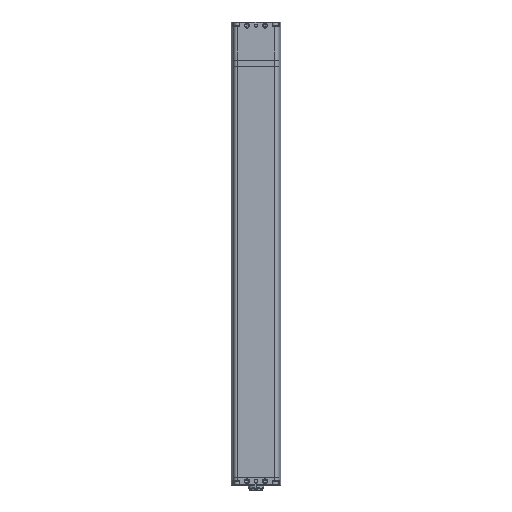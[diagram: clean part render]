
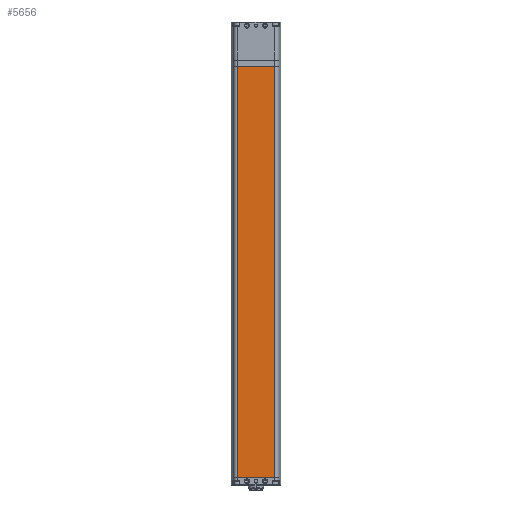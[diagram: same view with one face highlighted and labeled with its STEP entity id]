
A CAD part, front view. The second image highlights one B-rep face of the part: STEP entity #5656.
In plain terms, the highlighted planar face has unit normal (0, -1, 0).
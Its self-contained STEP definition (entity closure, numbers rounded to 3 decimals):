
#2017 = CARTESIAN_POINT ( 'NONE',  ( -31.138, -41., -73. ) ) ;
#2810 = PLANE ( 'NONE',  #3104 ) ;
#3104 = AXIS2_PLACEMENT_3D ( 'NONE', #18242, #6195, #4494 ) ;
#3243 = CARTESIAN_POINT ( 'NONE',  ( -41., -41., -751. ) ) ;
#3997 = VECTOR ( 'NONE', #6530, 1000. ) ;
#4467 = LINE ( 'NONE', #11336, #6389 ) ;
#4494 = DIRECTION ( 'NONE',  ( 0., 0., -1. ) ) ;
#5656 = ADVANCED_FACE ( 'NONE', ( #21645 ), #2810, .T. ) ;
#5847 = VERTEX_POINT ( 'NONE', #11158 ) ;
#6195 = DIRECTION ( 'NONE',  ( 0., -1., 0. ) ) ;
#6389 = VECTOR ( 'NONE', #19678, 1000. ) ;
#6530 = DIRECTION ( 'NONE',  ( 1., 0., 0. ) ) ;
#6676 = ORIENTED_EDGE ( 'NONE', *, *, #8019, .T. ) ;
#7287 = DIRECTION ( 'NONE',  ( 0., 0., -1. ) ) ;
#7834 = CARTESIAN_POINT ( 'NONE',  ( -31.138, -41., -1073. ) ) ;
#7905 = CARTESIAN_POINT ( 'NONE',  ( -41., -41., -73. ) ) ;
#8019 = EDGE_CURVE ( 'NONE', #17722, #19153, #4467, .T. ) ;
#8176 = CARTESIAN_POINT ( 'NONE',  ( 31.138, -41., -751. ) ) ;
#9412 = EDGE_CURVE ( 'NONE', #5847, #17722, #18682, .T. ) ;
#9464 = VECTOR ( 'NONE', #14779, 1000. ) ;
#9596 = EDGE_CURVE ( 'NONE', #14908, #5847, #17955, .T. ) ;
#10195 = CARTESIAN_POINT ( 'NONE',  ( 31.138, -41., -73. ) ) ;
#11153 = ORIENTED_EDGE ( 'NONE', *, *, #9412, .T. ) ;
#11158 = CARTESIAN_POINT ( 'NONE',  ( -31.138, -41., -751. ) ) ;
#11336 = CARTESIAN_POINT ( 'NONE',  ( 31.138, -41., -1073. ) ) ;
#14779 = DIRECTION ( 'NONE',  ( 1., 0., 0. ) ) ;
#14908 = VERTEX_POINT ( 'NONE', #2017 ) ;
#16566 = ORIENTED_EDGE ( 'NONE', *, *, #18611, .F. ) ;
#16944 = EDGE_LOOP ( 'NONE', ( #17680, #11153, #6676, #16566 ) ) ;
#17672 = VECTOR ( 'NONE', #7287, 1000. ) ;
#17680 = ORIENTED_EDGE ( 'NONE', *, *, #9596, .T. ) ;
#17722 = VERTEX_POINT ( 'NONE', #8176 ) ;
#17955 = LINE ( 'NONE', #7834, #17672 ) ;
#18137 = LINE ( 'NONE', #7905, #9464 ) ;
#18242 = CARTESIAN_POINT ( 'NONE',  ( -41., -41., -1073. ) ) ;
#18611 = EDGE_CURVE ( 'NONE', #14908, #19153, #18137, .T. ) ;
#18682 = LINE ( 'NONE', #3243, #3997 ) ;
#19153 = VERTEX_POINT ( 'NONE', #10195 ) ;
#19678 = DIRECTION ( 'NONE',  ( 0., 0., 1. ) ) ;
#21645 = FACE_OUTER_BOUND ( 'NONE', #16944, .T. ) ;
